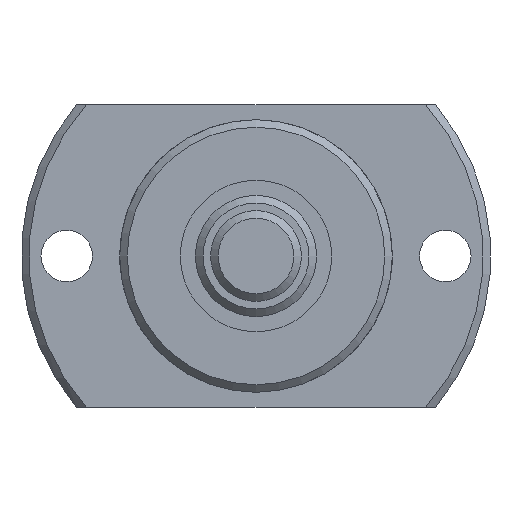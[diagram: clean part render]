
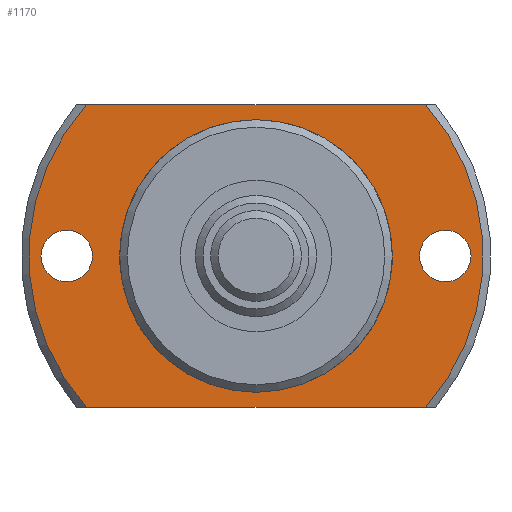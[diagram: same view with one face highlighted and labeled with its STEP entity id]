
A CAD part, left-side view. The second image highlights one B-rep face of the part: STEP entity #1170.
In plain terms, the highlighted planar face has unit normal (-1, 0, 0).
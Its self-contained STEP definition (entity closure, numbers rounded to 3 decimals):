
#121=CIRCLE('',#1303,8.85);
#124=CIRCLE('',#1307,15.);
#130=CIRCLE('',#1318,1.7);
#131=CIRCLE('',#1319,1.7);
#132=CIRCLE('',#1320,15.);
#274=ORIENTED_EDGE('',*,*,#541,.T.);
#275=ORIENTED_EDGE('',*,*,#542,.T.);
#276=ORIENTED_EDGE('',*,*,#530,.F.);
#277=ORIENTED_EDGE('',*,*,#543,.T.);
#278=ORIENTED_EDGE('',*,*,#544,.F.);
#279=ORIENTED_EDGE('',*,*,#545,.T.);
#280=ORIENTED_EDGE('',*,*,#524,.T.);
#524=EDGE_CURVE('',#670,#670,#121,.T.);
#530=EDGE_CURVE('',#675,#676,#124,.T.);
#541=EDGE_CURVE('',#685,#685,#130,.T.);
#542=EDGE_CURVE('',#686,#686,#131,.T.);
#543=EDGE_CURVE('',#675,#687,#760,.T.);
#544=EDGE_CURVE('',#688,#687,#132,.T.);
#545=EDGE_CURVE('',#688,#676,#761,.T.);
#670=VERTEX_POINT('',#1916);
#675=VERTEX_POINT('',#1930);
#676=VERTEX_POINT('',#1932);
#685=VERTEX_POINT('',#1966);
#686=VERTEX_POINT('',#1968);
#687=VERTEX_POINT('',#1970);
#688=VERTEX_POINT('',#1972);
#760=LINE('',#1969,#820);
#761=LINE('',#1973,#821);
#820=VECTOR('',#1583,1000.);
#821=VECTOR('',#1586,1000.);
#914=EDGE_LOOP('',(#274));
#915=EDGE_LOOP('',(#275));
#916=EDGE_LOOP('',(#276,#277,#278,#279));
#917=EDGE_LOOP('',(#280));
#1034=FACE_BOUND('',#914,.T.);
#1035=FACE_BOUND('',#915,.T.);
#1036=FACE_BOUND('',#916,.T.);
#1037=FACE_BOUND('',#917,.T.);
#1111=PLANE('',#1317);
#1170=ADVANCED_FACE('',(#1034,#1035,#1036,#1037),#1111,.F.);
#1303=AXIS2_PLACEMENT_3D('',#1915,#1545,#1546);
#1307=AXIS2_PLACEMENT_3D('',#1931,#1555,#1556);
#1317=AXIS2_PLACEMENT_3D('',#1964,#1577,#1578);
#1318=AXIS2_PLACEMENT_3D('',#1965,#1579,#1580);
#1319=AXIS2_PLACEMENT_3D('',#1967,#1581,#1582);
#1320=AXIS2_PLACEMENT_3D('',#1971,#1584,#1585);
#1545=DIRECTION('',(1.,0.,0.));
#1546=DIRECTION('',(0.,0.,-1.));
#1555=DIRECTION('',(1.,0.,0.));
#1556=DIRECTION('',(0.,0.,-1.));
#1577=DIRECTION('',(1.,0.,0.));
#1578=DIRECTION('',(0.,0.,-1.));
#1579=DIRECTION('',(1.,0.,0.));
#1580=DIRECTION('',(0.,0.,-1.));
#1581=DIRECTION('',(1.,0.,0.));
#1582=DIRECTION('',(0.,0.,-1.));
#1583=DIRECTION('',(0.,-1.,0.));
#1584=DIRECTION('',(1.,0.,0.));
#1585=DIRECTION('',(0.,0.,-1.));
#1586=DIRECTION('',(0.,1.,0.));
#1915=CARTESIAN_POINT('',(24.,0.,0.));
#1916=CARTESIAN_POINT('',(24.,0.,-8.85));
#1930=CARTESIAN_POINT('',(24.,11.18,-10.));
#1931=CARTESIAN_POINT('',(24.,0.,0.));
#1932=CARTESIAN_POINT('',(24.,11.18,10.));
#1964=CARTESIAN_POINT('',(24.,8.85,0.));
#1965=CARTESIAN_POINT('',(24.,-12.5,0.));
#1966=CARTESIAN_POINT('',(24.,-12.5,-1.7));
#1967=CARTESIAN_POINT('',(24.,12.5,0.));
#1968=CARTESIAN_POINT('',(24.,12.5,-1.7));
#1969=CARTESIAN_POINT('',(24.,8.85,-10.));
#1970=CARTESIAN_POINT('',(24.,-11.18,-10.));
#1971=CARTESIAN_POINT('',(24.,0.,0.));
#1972=CARTESIAN_POINT('',(24.,-11.18,10.));
#1973=CARTESIAN_POINT('',(24.,8.85,10.));
